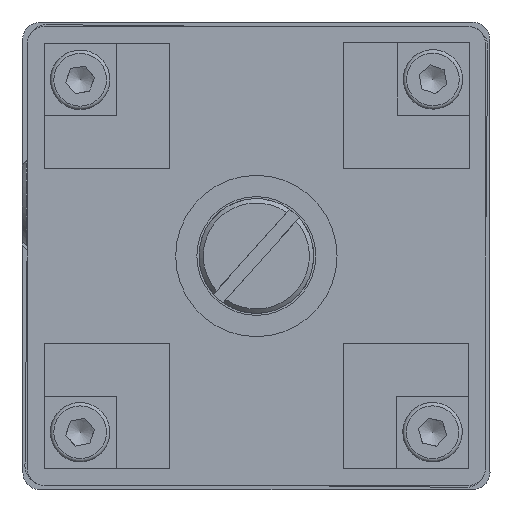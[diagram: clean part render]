
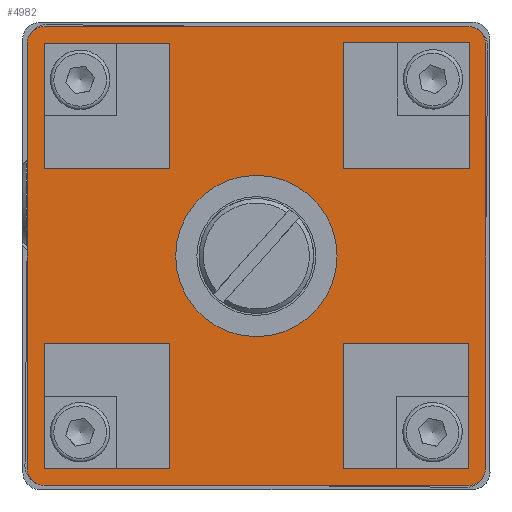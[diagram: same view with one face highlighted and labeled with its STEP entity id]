
A CAD part, front view. The second image highlights one B-rep face of the part: STEP entity #4982.
In plain terms, the highlighted planar face has unit normal (0, -1, 0).
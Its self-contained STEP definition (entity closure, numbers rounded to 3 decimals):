
#4744=CARTESIAN_POINT('',(9.5,0.0,27.0));
#4745=VERTEX_POINT('',#4744);
#4746=CARTESIAN_POINT('',(0.0,0.0,27.0));
#4747=DIRECTION('',(0.0,1.0,0.0));
#4748=DIRECTION('',(-1.0,0.0,0.0));
#4749=AXIS2_PLACEMENT_3D('',#4746,#4747,#4748);
#4750=CIRCLE('',#4749,9.5);
#4751=EDGE_CURVE('',#4745,#4745,#4750,.T.);
#4768=CARTESIAN_POINT('',(0.0,0.0,0.0));
#4769=DIRECTION('',(0.0,-1.0,0.0));
#4770=DIRECTION('',(0.0,0.0,-1.0));
#4771=AXIS2_PLACEMENT_3D('',#4768,#4769,#4770);
#4772=PLANE('',#4771);
#4773=CARTESIAN_POINT('',(27.0,0.0,2.0));
#4774=VERTEX_POINT('',#4773);
#4775=CARTESIAN_POINT('',(25.0,0.0,0.0));
#4776=VERTEX_POINT('',#4775);
#4777=CARTESIAN_POINT('',(25.0,0.0,2.0));
#4778=DIRECTION('',(0.0,1.,0.0));
#4779=DIRECTION('',(0.707,0.0,-0.707));
#4780=AXIS2_PLACEMENT_3D('',#4777,#4778,#4779);
#4781=CIRCLE('',#4780,2.0);
#4782=EDGE_CURVE('',#4774,#4776,#4781,.T.);
#4783=ORIENTED_EDGE('',*,*,#4782,.F.);
#4784=CARTESIAN_POINT('',(27.0,0.0,52.0));
#4785=VERTEX_POINT('',#4784);
#4786=CARTESIAN_POINT('',(27.0,0.0,2.0));
#4787=DIRECTION('',(0.0,0.0,1.0));
#4788=VECTOR('',#4787,50.0);
#4789=LINE('',#4786,#4788);
#4790=EDGE_CURVE('',#4774,#4785,#4789,.T.);
#4791=ORIENTED_EDGE('',*,*,#4790,.T.);
#4792=CARTESIAN_POINT('',(25.0,0.0,54.0));
#4793=VERTEX_POINT('',#4792);
#4794=CARTESIAN_POINT('',(25.0,0.0,52.0));
#4795=DIRECTION('',(0.0,1.0,0.0));
#4796=DIRECTION('',(0.707,0.0,0.707));
#4797=AXIS2_PLACEMENT_3D('',#4794,#4795,#4796);
#4798=CIRCLE('',#4797,2.);
#4799=EDGE_CURVE('',#4793,#4785,#4798,.T.);
#4800=ORIENTED_EDGE('',*,*,#4799,.F.);
#4801=CARTESIAN_POINT('',(-25.0,0.0,54.0));
#4802=VERTEX_POINT('',#4801);
#4803=CARTESIAN_POINT('',(25.0,0.0,54.0));
#4804=DIRECTION('',(-1.0,0.0,0.0));
#4805=VECTOR('',#4804,50.0);
#4806=LINE('',#4803,#4805);
#4807=EDGE_CURVE('',#4793,#4802,#4806,.T.);
#4808=ORIENTED_EDGE('',*,*,#4807,.T.);
#4809=CARTESIAN_POINT('',(-27.0,0.0,52.0));
#4810=VERTEX_POINT('',#4809);
#4811=CARTESIAN_POINT('',(-25.0,0.0,52.0));
#4812=DIRECTION('',(0.0,1.0,0.0));
#4813=DIRECTION('',(-0.707,0.0,0.707));
#4814=AXIS2_PLACEMENT_3D('',#4811,#4812,#4813);
#4815=CIRCLE('',#4814,2.);
#4816=EDGE_CURVE('',#4810,#4802,#4815,.T.);
#4817=ORIENTED_EDGE('',*,*,#4816,.F.);
#4818=CARTESIAN_POINT('',(-27.0,0.0,2.0));
#4819=VERTEX_POINT('',#4818);
#4820=CARTESIAN_POINT('',(-27.0,0.0,2.0));
#4821=DIRECTION('',(0.0,0.0,1.0));
#4822=VECTOR('',#4821,50.0);
#4823=LINE('',#4820,#4822);
#4824=EDGE_CURVE('',#4819,#4810,#4823,.T.);
#4825=ORIENTED_EDGE('',*,*,#4824,.F.);
#4826=CARTESIAN_POINT('',(-25.0,0.0,0.0));
#4827=VERTEX_POINT('',#4826);
#4828=CARTESIAN_POINT('',(-25.0,0.0,2.0));
#4829=DIRECTION('',(0.0,1.,0.0));
#4830=DIRECTION('',(-0.707,0.0,-0.707));
#4831=AXIS2_PLACEMENT_3D('',#4828,#4829,#4830);
#4832=CIRCLE('',#4831,2.0);
#4833=EDGE_CURVE('',#4827,#4819,#4832,.T.);
#4834=ORIENTED_EDGE('',*,*,#4833,.F.);
#4835=CARTESIAN_POINT('',(-25.0,0.0,0.0));
#4836=DIRECTION('',(1.0,0.0,0.0));
#4837=VECTOR('',#4836,50.0);
#4838=LINE('',#4835,#4837);
#4839=EDGE_CURVE('',#4827,#4776,#4838,.T.);
#4840=ORIENTED_EDGE('',*,*,#4839,.T.);
#4841=EDGE_LOOP('',(#4783,#4791,#4800,#4808,#4817,#4825,#4834,#4840));
#4842=FACE_OUTER_BOUND('',#4841,.T.);
#4843=CARTESIAN_POINT('',(10.25,0.0,16.75));
#4844=VERTEX_POINT('',#4843);
#4845=CARTESIAN_POINT('',(25.0,0.0,16.75));
#4846=VERTEX_POINT('',#4845);
#4847=CARTESIAN_POINT('',(10.25,0.0,16.75));
#4848=DIRECTION('',(1.0,0.0,0.0));
#4849=VECTOR('',#4848,14.75);
#4850=LINE('',#4847,#4849);
#4851=EDGE_CURVE('',#4844,#4846,#4850,.T.);
#4852=ORIENTED_EDGE('',*,*,#4851,.T.);
#4853=CARTESIAN_POINT('',(25.0,0.0,2.0));
#4854=VERTEX_POINT('',#4853);
#4855=CARTESIAN_POINT('',(25.0,0.0,16.75));
#4856=DIRECTION('',(0.0,0.0,-1.0));
#4857=VECTOR('',#4856,14.75);
#4858=LINE('',#4855,#4857);
#4859=EDGE_CURVE('',#4846,#4854,#4858,.T.);
#4860=ORIENTED_EDGE('',*,*,#4859,.T.);
#4861=CARTESIAN_POINT('',(10.25,0.0,2.0));
#4862=VERTEX_POINT('',#4861);
#4863=CARTESIAN_POINT('',(25.0,0.0,2.0));
#4864=DIRECTION('',(-1.0,0.0,0.0));
#4865=VECTOR('',#4864,14.75);
#4866=LINE('',#4863,#4865);
#4867=EDGE_CURVE('',#4854,#4862,#4866,.T.);
#4868=ORIENTED_EDGE('',*,*,#4867,.T.);
#4869=CARTESIAN_POINT('',(10.25,0.0,2.0));
#4870=DIRECTION('',(0.0,0.0,1.0));
#4871=VECTOR('',#4870,14.75);
#4872=LINE('',#4869,#4871);
#4873=EDGE_CURVE('',#4862,#4844,#4872,.T.);
#4874=ORIENTED_EDGE('',*,*,#4873,.T.);
#4875=EDGE_LOOP('',(#4852,#4860,#4868,#4874));
#4876=FACE_BOUND('',#4875,.T.);
#4877=CARTESIAN_POINT('',(-25.0,0.0,37.25));
#4878=VERTEX_POINT('',#4877);
#4879=CARTESIAN_POINT('',(-25.0,0.0,52.0));
#4880=VERTEX_POINT('',#4879);
#4881=CARTESIAN_POINT('',(-25.0,0.0,37.25));
#4882=DIRECTION('',(0.0,0.0,1.0));
#4883=VECTOR('',#4882,14.75);
#4884=LINE('',#4881,#4883);
#4885=EDGE_CURVE('',#4878,#4880,#4884,.T.);
#4886=ORIENTED_EDGE('',*,*,#4885,.T.);
#4887=CARTESIAN_POINT('',(-10.25,0.0,52.0));
#4888=VERTEX_POINT('',#4887);
#4889=CARTESIAN_POINT('',(-25.0,0.0,52.0));
#4890=DIRECTION('',(1.0,0.0,0.0));
#4891=VECTOR('',#4890,14.75);
#4892=LINE('',#4889,#4891);
#4893=EDGE_CURVE('',#4880,#4888,#4892,.T.);
#4894=ORIENTED_EDGE('',*,*,#4893,.T.);
#4895=CARTESIAN_POINT('',(-10.25,0.0,37.25));
#4896=VERTEX_POINT('',#4895);
#4897=CARTESIAN_POINT('',(-10.25,0.0,52.0));
#4898=DIRECTION('',(0.0,0.0,-1.0));
#4899=VECTOR('',#4898,14.75);
#4900=LINE('',#4897,#4899);
#4901=EDGE_CURVE('',#4888,#4896,#4900,.T.);
#4902=ORIENTED_EDGE('',*,*,#4901,.T.);
#4903=CARTESIAN_POINT('',(-10.25,0.0,37.25));
#4904=DIRECTION('',(-1.0,0.0,0.0));
#4905=VECTOR('',#4904,14.75);
#4906=LINE('',#4903,#4905);
#4907=EDGE_CURVE('',#4896,#4878,#4906,.T.);
#4908=ORIENTED_EDGE('',*,*,#4907,.T.);
#4909=EDGE_LOOP('',(#4886,#4894,#4902,#4908));
#4910=FACE_BOUND('',#4909,.T.);
#4911=CARTESIAN_POINT('',(-10.25,0.0,2.0));
#4912=VERTEX_POINT('',#4911);
#4913=CARTESIAN_POINT('',(-25.0,0.0,2.0));
#4914=VERTEX_POINT('',#4913);
#4915=CARTESIAN_POINT('',(-10.25,0.0,2.0));
#4916=DIRECTION('',(-1.0,0.0,0.0));
#4917=VECTOR('',#4916,14.75);
#4918=LINE('',#4915,#4917);
#4919=EDGE_CURVE('',#4912,#4914,#4918,.T.);
#4920=ORIENTED_EDGE('',*,*,#4919,.T.);
#4921=CARTESIAN_POINT('',(-25.0,0.0,16.75));
#4922=VERTEX_POINT('',#4921);
#4923=CARTESIAN_POINT('',(-25.0,0.0,2.0));
#4924=DIRECTION('',(0.0,0.0,1.0));
#4925=VECTOR('',#4924,14.75);
#4926=LINE('',#4923,#4925);
#4927=EDGE_CURVE('',#4914,#4922,#4926,.T.);
#4928=ORIENTED_EDGE('',*,*,#4927,.T.);
#4929=CARTESIAN_POINT('',(-10.25,0.0,16.75));
#4930=VERTEX_POINT('',#4929);
#4931=CARTESIAN_POINT('',(-25.0,0.0,16.75));
#4932=DIRECTION('',(1.0,0.0,0.0));
#4933=VECTOR('',#4932,14.75);
#4934=LINE('',#4931,#4933);
#4935=EDGE_CURVE('',#4922,#4930,#4934,.T.);
#4936=ORIENTED_EDGE('',*,*,#4935,.T.);
#4937=CARTESIAN_POINT('',(-10.25,0.0,16.75));
#4938=DIRECTION('',(0.0,0.0,-1.0));
#4939=VECTOR('',#4938,14.75);
#4940=LINE('',#4937,#4939);
#4941=EDGE_CURVE('',#4930,#4912,#4940,.T.);
#4942=ORIENTED_EDGE('',*,*,#4941,.T.);
#4943=EDGE_LOOP('',(#4920,#4928,#4936,#4942));
#4944=FACE_BOUND('',#4943,.T.);
#4945=CARTESIAN_POINT('',(10.25,0.0,37.25));
#4946=VERTEX_POINT('',#4945);
#4947=CARTESIAN_POINT('',(10.25,0.0,52.1));
#4948=VERTEX_POINT('',#4947);
#4949=CARTESIAN_POINT('',(10.25,0.0,37.25));
#4950=DIRECTION('',(0.0,0.0,1.0));
#4951=VECTOR('',#4950,14.85);
#4952=LINE('',#4949,#4951);
#4953=EDGE_CURVE('',#4946,#4948,#4952,.T.);
#4954=ORIENTED_EDGE('',*,*,#4953,.T.);
#4955=CARTESIAN_POINT('',(25.1,0.0,52.1));
#4956=VERTEX_POINT('',#4955);
#4957=CARTESIAN_POINT('',(10.25,0.0,52.1));
#4958=DIRECTION('',(1.0,0.0,0.0));
#4959=VECTOR('',#4958,14.85);
#4960=LINE('',#4957,#4959);
#4961=EDGE_CURVE('',#4948,#4956,#4960,.T.);
#4962=ORIENTED_EDGE('',*,*,#4961,.T.);
#4963=CARTESIAN_POINT('',(25.1,0.0,37.25));
#4964=VERTEX_POINT('',#4963);
#4965=CARTESIAN_POINT('',(25.1,0.0,52.1));
#4966=DIRECTION('',(0.0,0.0,-1.0));
#4967=VECTOR('',#4966,14.85);
#4968=LINE('',#4965,#4967);
#4969=EDGE_CURVE('',#4956,#4964,#4968,.T.);
#4970=ORIENTED_EDGE('',*,*,#4969,.T.);
#4971=CARTESIAN_POINT('',(25.1,0.0,37.25));
#4972=DIRECTION('',(-1.0,0.0,0.0));
#4973=VECTOR('',#4972,14.85);
#4974=LINE('',#4971,#4973);
#4975=EDGE_CURVE('',#4964,#4946,#4974,.T.);
#4976=ORIENTED_EDGE('',*,*,#4975,.T.);
#4977=EDGE_LOOP('',(#4954,#4962,#4970,#4976));
#4978=FACE_BOUND('',#4977,.T.);
#4979=ORIENTED_EDGE('',*,*,#4751,.T.);
#4980=EDGE_LOOP('',(#4979));
#4981=FACE_BOUND('',#4980,.T.);
#4982=ADVANCED_FACE('',(#4842,#4876,#4910,#4944,#4978,#4981),#4772,.T.);
